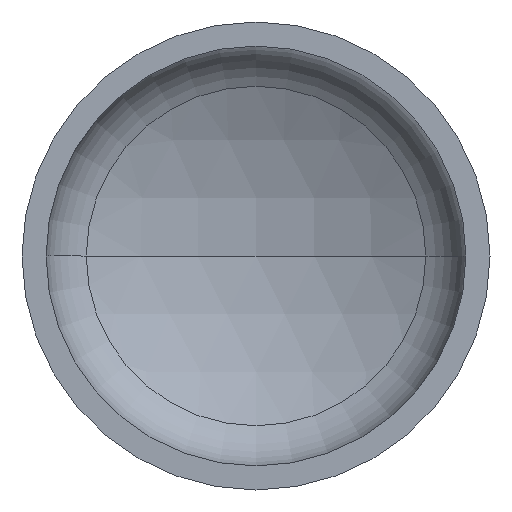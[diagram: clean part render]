
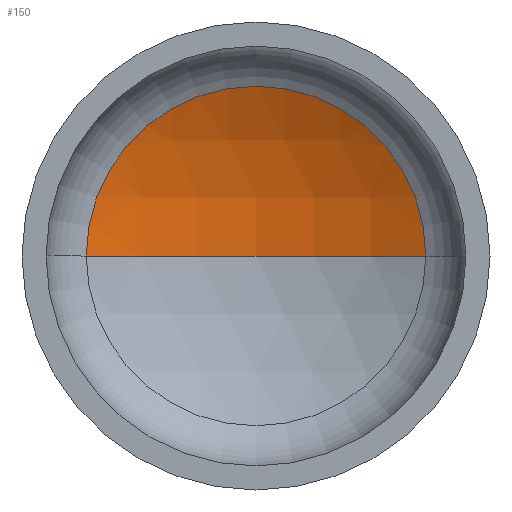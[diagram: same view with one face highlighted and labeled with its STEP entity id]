
A CAD part, front view. The second image highlights one B-rep face of the part: STEP entity #150.
In plain terms, the highlighted spherical face has radius 560 mm.
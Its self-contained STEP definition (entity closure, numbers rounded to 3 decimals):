
#12 = CARTESIAN_POINT ( 'NONE',  ( 0., -291.103, 0. ) ) ;
#17 = EDGE_LOOP ( 'NONE', ( #116, #97, #50 ) ) ;
#27 = VERTEX_POINT ( 'NONE', #361 ) ;
#32 = AXIS2_PLACEMENT_3D ( 'NONE', #12, #282, #207 ) ;
#38 = AXIS2_PLACEMENT_3D ( 'NONE', #239, #191, #206 ) ;
#44 = AXIS2_PLACEMENT_3D ( 'NONE', #309, #258, #218 ) ;
#47 = AXIS2_PLACEMENT_3D ( 'NONE', #212, #195, #200 ) ;
#50 = ORIENTED_EDGE ( 'NONE', *, *, #98, .T. ) ;
#87 = VERTEX_POINT ( 'NONE', #340 ) ;
#97 = ORIENTED_EDGE ( 'NONE', *, *, #127, .T. ) ;
#98 = EDGE_CURVE ( 'NONE', #87, #119, #390, .T. ) ;
#116 = ORIENTED_EDGE ( 'NONE', *, *, #143, .F. ) ;
#119 = VERTEX_POINT ( 'NONE', #380 ) ;
#127 = EDGE_CURVE ( 'NONE', #27, #87, #136, .T. ) ;
#136 = CIRCLE ( 'NONE', #44, 560. ) ;
#143 = EDGE_CURVE ( 'NONE', #27, #119, #384, .T. ) ;
#150 = ADVANCED_FACE ( 'NONE', ( #205 ), #252, .F. ) ;
#191 = DIRECTION ( 'NONE',  ( 0., 0., 1. ) ) ;
#195 = DIRECTION ( 'NONE',  ( 0., -1., 0. ) ) ;
#200 = DIRECTION ( 'NONE',  ( 1., 0., 0. ) ) ;
#205 = FACE_OUTER_BOUND ( 'NONE', #17, .T. ) ;
#206 = DIRECTION ( 'NONE',  ( 1., 0., 0. ) ) ;
#207 = DIRECTION ( 'NONE',  ( -1., 0., 0. ) ) ;
#212 = CARTESIAN_POINT ( 'NONE',  ( 0., 208.048, 0. ) ) ;
#218 = DIRECTION ( 'NONE',  ( -1., 0., 0. ) ) ;
#239 = CARTESIAN_POINT ( 'NONE',  ( 0., -291.103, 0. ) ) ;
#252 = SPHERICAL_SURFACE ( 'NONE', #32, 560. ) ;
#258 = DIRECTION ( 'NONE',  ( 0., 0., -1. ) ) ;
#282 = DIRECTION ( 'NONE',  ( 0., 0., -1. ) ) ;
#309 = CARTESIAN_POINT ( 'NONE',  ( 0., -291.103, 0. ) ) ;
#340 = CARTESIAN_POINT ( 'NONE',  ( 253.867, 208.048, 0. ) ) ;
#361 = CARTESIAN_POINT ( 'NONE',  ( 0., 268.897, 0. ) ) ;
#380 = CARTESIAN_POINT ( 'NONE',  ( -253.867, 208.048, 0. ) ) ;
#384 = CIRCLE ( 'NONE', #38, 560. ) ;
#390 = CIRCLE ( 'NONE', #47, 253.867 ) ;
